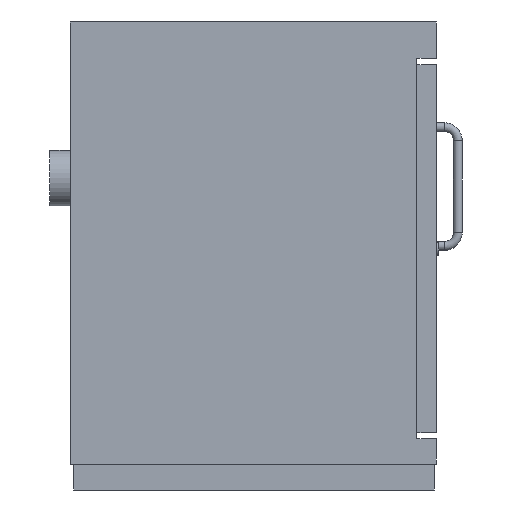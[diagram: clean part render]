
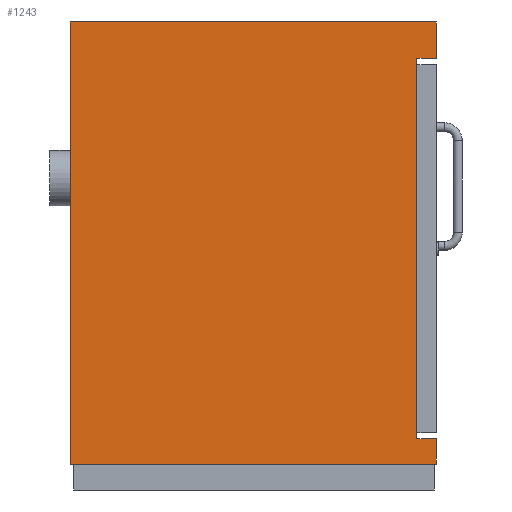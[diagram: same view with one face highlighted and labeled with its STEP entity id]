
A CAD part, left-side view. The second image highlights one B-rep face of the part: STEP entity #1243.
In plain terms, the highlighted planar face has unit normal (-1, 0, 0).
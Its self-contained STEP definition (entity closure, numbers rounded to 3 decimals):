
#63=LINE('',#1743,#135);
#64=LINE('',#1745,#136);
#69=LINE('',#1755,#141);
#72=LINE('',#1761,#144);
#73=LINE('',#1763,#145);
#88=LINE('',#1796,#160);
#89=LINE('',#1798,#161);
#90=LINE('',#1800,#162);
#135=VECTOR('',#1512,1000.);
#136=VECTOR('',#1515,1000.);
#141=VECTOR('',#1522,1000.);
#144=VECTOR('',#1527,1000.);
#145=VECTOR('',#1530,1000.);
#160=VECTOR('',#1561,1000.);
#161=VECTOR('',#1564,1000.);
#162=VECTOR('',#1565,1000.);
#360=ORIENTED_EDGE('',*,*,#462,.F.);
#361=ORIENTED_EDGE('',*,*,#459,.T.);
#362=ORIENTED_EDGE('',*,*,#454,.T.);
#363=ORIENTED_EDGE('',*,*,#453,.F.);
#364=ORIENTED_EDGE('',*,*,#479,.F.);
#365=ORIENTED_EDGE('',*,*,#480,.T.);
#366=ORIENTED_EDGE('',*,*,#481,.T.);
#367=ORIENTED_EDGE('',*,*,#463,.F.);
#453=EDGE_CURVE('',#541,#538,#63,.T.);
#454=EDGE_CURVE('',#542,#538,#64,.T.);
#459=EDGE_CURVE('',#545,#542,#69,.T.);
#462=EDGE_CURVE('',#545,#547,#72,.T.);
#463=EDGE_CURVE('',#547,#548,#73,.T.);
#479=EDGE_CURVE('',#557,#541,#88,.T.);
#480=EDGE_CURVE('',#557,#558,#89,.T.);
#481=EDGE_CURVE('',#558,#548,#90,.T.);
#538=VERTEX_POINT('',#1737);
#541=VERTEX_POINT('',#1742);
#542=VERTEX_POINT('',#1746);
#545=VERTEX_POINT('',#1753);
#547=VERTEX_POINT('',#1759);
#548=VERTEX_POINT('',#1764);
#557=VERTEX_POINT('',#1795);
#558=VERTEX_POINT('',#1799);
#670=EDGE_LOOP('',(#360,#361,#362,#363,#364,#365,#366,#367));
#760=FACE_BOUND('',#670,.T.);
#800=PLANE('',#1330);
#1243=ADVANCED_FACE('',(#760),#800,.F.);
#1330=AXIS2_PLACEMENT_3D('',#1797,#1562,#1563);
#1512=DIRECTION('',(0.,0.,-1.));
#1515=DIRECTION('',(0.,-1.,0.));
#1522=DIRECTION('',(0.,0.,1.));
#1527=DIRECTION('',(0.,-1.,0.));
#1530=DIRECTION('',(0.,0.,-1.));
#1561=DIRECTION('',(0.,-1.,0.));
#1562=DIRECTION('',(1.,0.,0.));
#1563=DIRECTION('',(0.,0.,-1.));
#1564=DIRECTION('',(0.,0.,-1.));
#1565=DIRECTION('',(0.,-1.,0.));
#1737=CARTESIAN_POINT('',(-255.75,0.,547.));
#1742=CARTESIAN_POINT('',(-255.75,0.,596.));
#1743=CARTESIAN_POINT('',(-255.75,0.,596.));
#1745=CARTESIAN_POINT('',(-255.75,26.,547.));
#1746=CARTESIAN_POINT('',(-255.75,26.,547.));
#1753=CARTESIAN_POINT('',(-255.75,26.,34.));
#1755=CARTESIAN_POINT('',(-255.75,26.,547.));
#1759=CARTESIAN_POINT('',(-255.75,0.,34.));
#1761=CARTESIAN_POINT('',(-255.75,26.,34.));
#1763=CARTESIAN_POINT('',(-255.75,0.,596.));
#1764=CARTESIAN_POINT('',(-255.75,0.,0.));
#1795=CARTESIAN_POINT('',(-255.75,493.5,596.));
#1796=CARTESIAN_POINT('',(-255.75,493.,596.));
#1797=CARTESIAN_POINT('',(-255.75,493.,596.));
#1798=CARTESIAN_POINT('',(-255.75,493.5,596.));
#1799=CARTESIAN_POINT('',(-255.75,493.5,0.));
#1800=CARTESIAN_POINT('',(-255.75,493.,0.));
